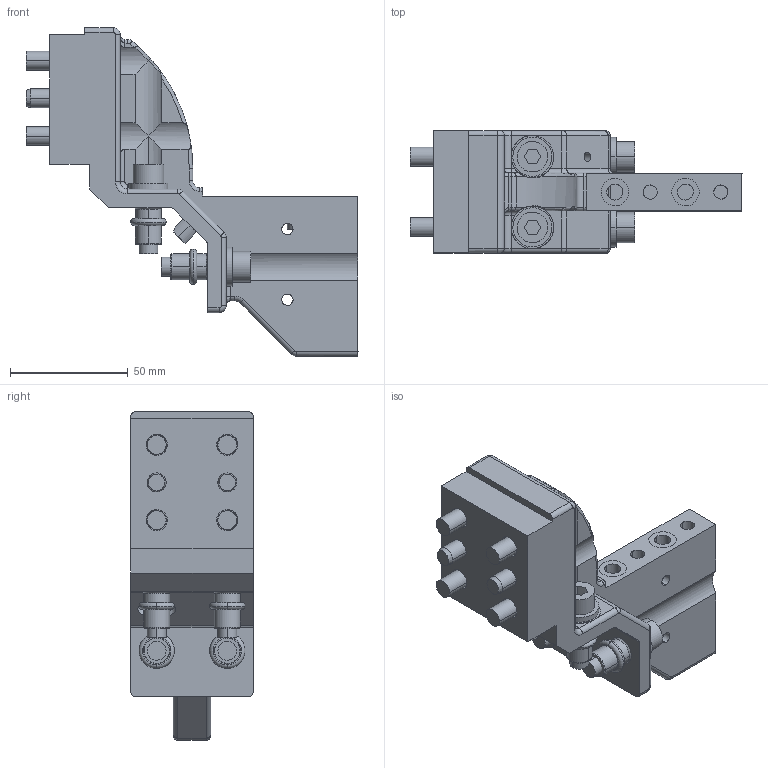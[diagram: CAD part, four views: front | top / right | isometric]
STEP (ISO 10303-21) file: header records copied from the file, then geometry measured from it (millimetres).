
FILE_DESCRIPTION(('STEP AP214'),'1');
FILE_NAME('EGT276_1713140_ANBINDUNG_SPANNER_50-63_SW50_WAAGR.CATPart.stp','2015-09-14T13:16:09',('3D-Tool'),(' '),'Spatial InterOp 3D',' ',' ');
FILE_SCHEMA(('automotive_design'));
Length unit declared in the file: millimetre
Products named in the file (16): EGT276_1713140_ANBINDUNG_SPANNER_50-63_SW50_WAAGR|_DIT50407|_DIT50407; EGT276_1713140_ANBINDUNG_SPANNER_50-63_SW50_WAAGR|_DIT50408|_DIT50408; EGT276_1713140_ANBINDUNG_SPANNER_50-63_SW50_WAAGR|_DIT50413__DIT38353|_DIT50413__DIT38353; EGT276_1713140_ANBINDUNG_SPANNER_50-63_SW50_WAAGR|_DIT50413_EGT_276_5251910__A__1_A_CA_FRGMOD_ANBIND._SPANNER_50_63_AN_SW50_WAAGE_FMFF_3D_xSET77.1|_DIT50413_EGT_276_5251910__A__1_A_CA_FRGMOD_ANBIND._SPANNER_50_63_AN_SW50_WAAGE_FMFF_3D_xSET77.1; EGT276_1713140_ANBINDUNG_SPANNER_50-63_SW50_WAAGR|_DIT50414__DIT38353|_DIT50414__DIT38353; EGT276_1713140_ANBINDUNG_SPANNER_50-63_SW50_WAAGR|_DIT50414_EGT_276_5251910__A__1_A_CA_FRGMOD_ANBIND._SPANNER_50_63_AN_SW50_WAAGE_FMFF_3D_xSET77.1|_DIT50414_EGT_276_5251910__A__1_A_CA_FRGMOD_ANBIND._SPANNER_50_63_AN_SW50_WAAGE_FMFF_3D_xSET77.1; EGT276_1713140_ANBINDUNG_SPANNER_50-63_SW50_WAAGR|_DIT50415__DIT38353|_DIT50415__DIT38353; EGT276_1713140_ANBINDUNG_SPANNER_50-63_SW50_WAAGR|_DIT50415_EGT_276_5251910__A__1_A_CA_FRGMOD_ANBIND._SPANNER_50_63_AN_SW50_WAAGE_FMFF_3D_xSET77.1|_DIT50415_EGT_276_5251910__A__1_A_CA_FRGMOD_ANBIND._SPANNER_50_63_AN_SW50_WAAGE_FMFF_3D_xSET77.1; EGT276_1713140_ANBINDUNG_SPANNER_50-63_SW50_WAAGR|_DIT50416_Hauptkörper ( _SOL2 - wsp STIFT_VARIO - Mit Fehler bei V5-Aktualisierung )|_DIT50416_Hauptkörper ( _SOL2 - wsp STIFT_VARIO - Mit Fehler bei V5-Aktualisierung ); EGT276_1713140_ANBINDUNG_SPANNER_50-63_SW50_WAAGR|_DIT50417__DIT38353|_DIT50417__DIT38353; EGT276_1713140_ANBINDUNG_SPANNER_50-63_SW50_WAAGR|_DIT50417_EGT_276_5251910__A__1_A_CA_FRGMOD_ANBIND._SPANNER_50_63_AN_SW50_WAAGE_FMFF_3D_xSET77.1|_DIT50417_EGT_276_5251910__A__1_A_CA_FRGMOD_ANBIND._SPANNER_50_63_AN_SW50_WAAGE_FMFF_3D_xSET77.1; EGT276_1713140_ANBINDUNG_SPANNER_50-63_SW50_WAAGR|_DIT50418|_DIT50418; EGT276_1713140_ANBINDUNG_SPANNER_50-63_SW50_WAAGR|_DIT50419|_DIT50419; EGT276_1713140_ANBINDUNG_SPANNER_50-63_SW50_WAAGR|_DIT50420|_DIT50420; EGT276_1713140_ANBINDUNG_SPANNER_50-63_SW50_WAAGR|_DIT50421|_DIT50421; EGT276_1713140_ANBINDUNG_SPANNER_50-63_SW50_WAAGR|EGT_276_5251910__A__1_A_CA_FRGMOD_ANBIND._SPANNER_50_63_AN_SW50_WAAGE_FMFF_3D_SET 1.1|EGT_276_5251910__A__1_A_CA_FRGMOD_ANBIND._SPANNER_50_63_AN_SW50_WAAGE_FMFF_3D_SET 1.1
Bounding box: 141 x 52 x 139.5 mm (x, y, z)
Volume: 209199.7 mm3; surface area: 68201.7 mm2
Topology: 16 solids, 16 shells, 517 faces, 1263 edges, 827 vertices
Faces by surface type: cylinder 238, plane 199, torus 45, cone 32, bspline 3
Entity records: 20410 total; most frequent: CARTESIAN_POINT 6685, ORIENTED_EDGE 2524, EDGE_CURVE 1262, DIRECTION 1079, VERTEX_POINT 828, B_SPLINE_CURVE_WITH_KNOTS 716, EDGE_LOOP 610, AXIS2_PLACEMENT_3D 538
